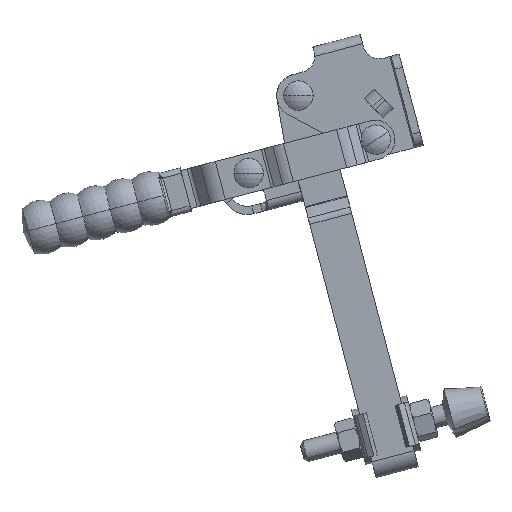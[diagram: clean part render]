
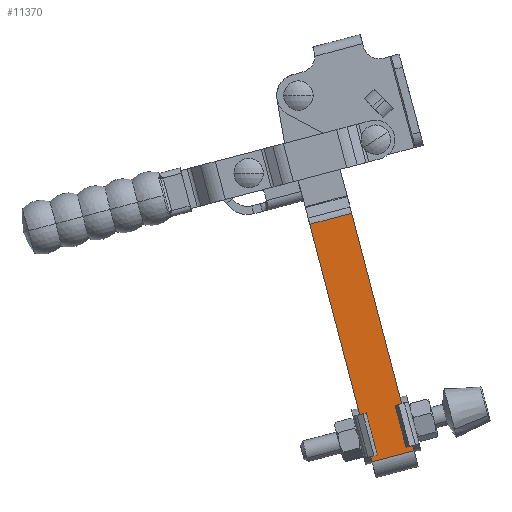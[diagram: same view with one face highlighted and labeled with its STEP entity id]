
A CAD part, left-side view. The second image highlights one B-rep face of the part: STEP entity #11370.
In plain terms, the highlighted planar face has unit normal (-1, 0, 0) as drawn and (0, 0, 1) by its records, which use the part's own axes.
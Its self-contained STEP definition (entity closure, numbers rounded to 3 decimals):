
#568 = LINE ( 'NONE', #1241, #5270 ) ;
#956 = DIRECTION ( 'NONE',  ( 0., -1., 0. ) ) ;
#1241 = CARTESIAN_POINT ( 'NONE',  ( 0., 18., 7.75 ) ) ;
#1680 = ORIENTED_EDGE ( 'NONE', *, *, #6167, .F. ) ;
#1711 = VECTOR ( 'NONE', #11108, 1000. ) ;
#1936 = EDGE_LOOP ( 'NONE', ( #5503, #1680, #8224, #5520 ) ) ;
#2189 = DIRECTION ( 'NONE',  ( -1., 0., 0. ) ) ;
#2658 = VERTEX_POINT ( 'NONE', #2885 ) ;
#2885 = CARTESIAN_POINT ( 'NONE',  ( -145.6, 2., 7.75 ) ) ;
#3057 = VERTEX_POINT ( 'NONE', #8160 ) ;
#3090 = LINE ( 'NONE', #11592, #4993 ) ;
#3325 = DIRECTION ( 'NONE',  ( -1., 0., 0. ) ) ;
#4941 = CARTESIAN_POINT ( 'NONE',  ( -145.6, 18., 7.75 ) ) ;
#4951 = DIRECTION ( 'NONE',  ( 0., -1., 0. ) ) ;
#4993 = VECTOR ( 'NONE', #4951, 1000. ) ;
#5270 = VECTOR ( 'NONE', #2189, 1000. ) ;
#5503 = ORIENTED_EDGE ( 'NONE', *, *, #10272, .T. ) ;
#5520 = ORIENTED_EDGE ( 'NONE', *, *, #11238, .T. ) ;
#5713 = VECTOR ( 'NONE', #956, 1000. ) ;
#6167 = EDGE_CURVE ( 'NONE', #7846, #2658, #6681, .T. ) ;
#6681 = LINE ( 'NONE', #12103, #1711 ) ;
#7038 = VERTEX_POINT ( 'NONE', #4941 ) ;
#7046 = PLANE ( 'NONE',  #7192 ) ;
#7192 = AXIS2_PLACEMENT_3D ( 'NONE', #8003, #8953, #3325 ) ;
#7212 = CARTESIAN_POINT ( 'NONE',  ( -55.011, 2., 7.75 ) ) ;
#7521 = CARTESIAN_POINT ( 'NONE',  ( -55.011, 20., 7.75 ) ) ;
#7605 = LINE ( 'NONE', #7521, #5713 ) ;
#7846 = VERTEX_POINT ( 'NONE', #7212 ) ;
#8003 = CARTESIAN_POINT ( 'NONE',  ( -53.642, 20., 7.75 ) ) ;
#8160 = CARTESIAN_POINT ( 'NONE',  ( -55.011, 18., 7.75 ) ) ;
#8224 = ORIENTED_EDGE ( 'NONE', *, *, #11695, .F. ) ;
#8953 = DIRECTION ( 'NONE',  ( 0., 0., -1. ) ) ;
#10272 = EDGE_CURVE ( 'NONE', #7038, #2658, #3090, .T. ) ;
#10722 = FACE_OUTER_BOUND ( 'NONE', #1936, .T. ) ;
#11108 = DIRECTION ( 'NONE',  ( -1., 0., 0. ) ) ;
#11238 = EDGE_CURVE ( 'NONE', #3057, #7038, #568, .T. ) ;
#11370 = ADVANCED_FACE ( 'NONE', ( #10722 ), #7046, .F. ) ;
#11592 = CARTESIAN_POINT ( 'NONE',  ( -145.6, 20., 7.75 ) ) ;
#11695 = EDGE_CURVE ( 'NONE', #3057, #7846, #7605, .T. ) ;
#12103 = CARTESIAN_POINT ( 'NONE',  ( 0., 2., 7.75 ) ) ;
